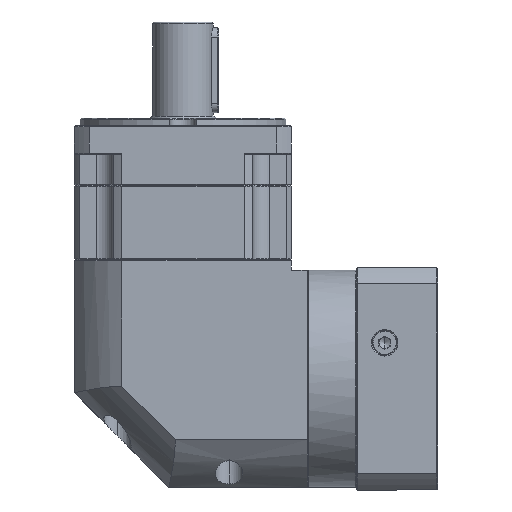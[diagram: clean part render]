
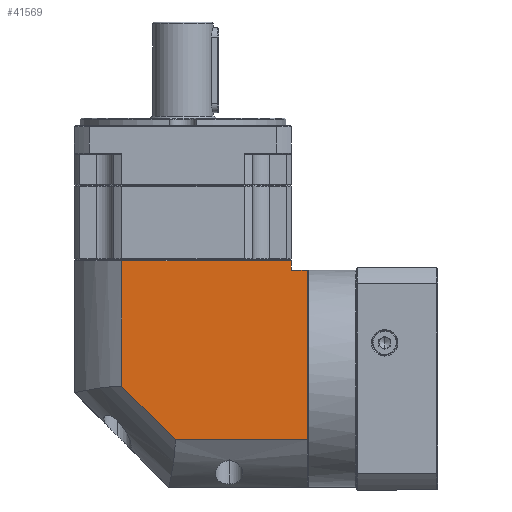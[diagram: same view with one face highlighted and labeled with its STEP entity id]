
A CAD part, left-side view. The second image highlights one B-rep face of the part: STEP entity #41569.
In plain terms, the highlighted planar face has unit normal (-1, 0, 0).
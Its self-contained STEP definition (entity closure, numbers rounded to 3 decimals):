
#10992 = LINE ( 'NONE', #14269, #46772 ) ;
#14269 = CARTESIAN_POINT ( 'NONE',  ( -232.004, 47.533, 127.551 ) ) ;
#17723 = VECTOR ( 'NONE', #92873, 1000. ) ;
#19528 = VERTEX_POINT ( 'NONE', #103938 ) ;
#20434 = VECTOR ( 'NONE', #114263, 1000. ) ;
#20439 = ORIENTED_EDGE ( 'NONE', *, *, #94235, .F. ) ;
#21920 = CARTESIAN_POINT ( 'NONE',  ( -232.004, 22.433, 60.989 ) ) ;
#21987 = VERTEX_POINT ( 'NONE', #82211 ) ;
#23954 = ORIENTED_EDGE ( 'NONE', *, *, #119647, .F. ) ;
#30238 = DIRECTION ( 'NONE',  ( 0., 0.707, 0.707 ) ) ;
#33066 = CARTESIAN_POINT ( 'NONE',  ( -232.004, -75.867, 134.051 ) ) ;
#40372 = CARTESIAN_POINT ( 'NONE',  ( -232.004, -67.467, 7.551 ) ) ;
#40466 = EDGE_LOOP ( 'NONE', ( #46878, #23954, #20439, #153439, #129612, #78913, #71272 ) ) ;
#41569 = ADVANCED_FACE ( 'NONE', ( #167503 ), #143169, .F. ) ;
#46772 = VECTOR ( 'NONE', #94880, 1000. ) ;
#46878 = ORIENTED_EDGE ( 'NONE', *, *, #90967, .F. ) ;
#49767 = CARTESIAN_POINT ( 'NONE',  ( -232.004, 47.533, 134.051 ) ) ;
#51289 = CARTESIAN_POINT ( 'NONE',  ( -232.004, -5.905, 32.651 ) ) ;
#52662 = CARTESIAN_POINT ( 'NONE',  ( -232.004, -67.467, 127.551 ) ) ;
#53929 = DIRECTION ( 'NONE',  ( 0., 0., 1. ) ) ;
#56702 = CARTESIAN_POINT ( 'NONE',  ( -232.004, -5.905, 32.651 ) ) ;
#59087 = VERTEX_POINT ( 'NONE', #21920 ) ;
#63288 = DIRECTION ( 'NONE',  ( 0., 1., 0. ) ) ;
#64385 = DIRECTION ( 'NONE',  ( 0., 0., 1. ) ) ;
#64419 = LINE ( 'NONE', #129673, #96008 ) ;
#65830 = CARTESIAN_POINT ( 'NONE',  ( -232.004, -67.467, 122.551 ) ) ;
#71272 = ORIENTED_EDGE ( 'NONE', *, *, #134874, .F. ) ;
#77113 = AXIS2_PLACEMENT_3D ( 'NONE', #49767, #143752, #63288 ) ;
#78913 = ORIENTED_EDGE ( 'NONE', *, *, #115236, .T. ) ;
#82211 = CARTESIAN_POINT ( 'NONE',  ( -232.004, -67.467, 122.551 ) ) ;
#83242 = LINE ( 'NONE', #169693, #114772 ) ;
#90967 = EDGE_CURVE ( 'NONE', #59087, #172652, #64419, .T. ) ;
#92725 = VERTEX_POINT ( 'NONE', #52662 ) ;
#92873 = DIRECTION ( 'NONE',  ( 0., 1., 0. ) ) ;
#94235 = EDGE_CURVE ( 'NONE', #106521, #161084, #83242, .T. ) ;
#94880 = DIRECTION ( 'NONE',  ( 0., -1., 0. ) ) ;
#95125 = CARTESIAN_POINT ( 'NONE',  ( -232.004, 22.433, 127.551 ) ) ;
#96008 = VECTOR ( 'NONE', #64385, 1000. ) ;
#97265 = EDGE_CURVE ( 'NONE', #19528, #106521, #115171, .T. ) ;
#100709 = VECTOR ( 'NONE', #30238, 1000. ) ;
#103938 = CARTESIAN_POINT ( 'NONE',  ( -232.004, -75.867, 122.551 ) ) ;
#104350 = LINE ( 'NONE', #40372, #171448 ) ;
#104968 = LINE ( 'NONE', #56702, #100709 ) ;
#106521 = VERTEX_POINT ( 'NONE', #152541 ) ;
#114263 = DIRECTION ( 'NONE',  ( 0., 0., -1. ) ) ;
#114772 = VECTOR ( 'NONE', #117033, 1000. ) ;
#115171 = LINE ( 'NONE', #33066, #20434 ) ;
#115236 = EDGE_CURVE ( 'NONE', #21987, #92725, #104350, .T. ) ;
#117033 = DIRECTION ( 'NONE',  ( 0., 1., 0. ) ) ;
#119647 = EDGE_CURVE ( 'NONE', #161084, #59087, #104968, .T. ) ;
#129612 = ORIENTED_EDGE ( 'NONE', *, *, #149343, .T. ) ;
#129673 = CARTESIAN_POINT ( 'NONE',  ( -232.004, 22.433, 134.051 ) ) ;
#134874 = EDGE_CURVE ( 'NONE', #172652, #92725, #10992, .T. ) ;
#143169 = PLANE ( 'NONE',  #77113 ) ;
#143752 = DIRECTION ( 'NONE',  ( 1., 0., 0. ) ) ;
#149343 = EDGE_CURVE ( 'NONE', #19528, #21987, #160645, .T. ) ;
#152541 = CARTESIAN_POINT ( 'NONE',  ( -232.004, -75.867, 32.651 ) ) ;
#153439 = ORIENTED_EDGE ( 'NONE', *, *, #97265, .F. ) ;
#160645 = LINE ( 'NONE', #65830, #17723 ) ;
#161084 = VERTEX_POINT ( 'NONE', #51289 ) ;
#167503 = FACE_OUTER_BOUND ( 'NONE', #40466, .T. ) ;
#169693 = CARTESIAN_POINT ( 'NONE',  ( -232.004, 47.533, 32.651 ) ) ;
#171448 = VECTOR ( 'NONE', #53929, 1000. ) ;
#172652 = VERTEX_POINT ( 'NONE', #95125 ) ;
